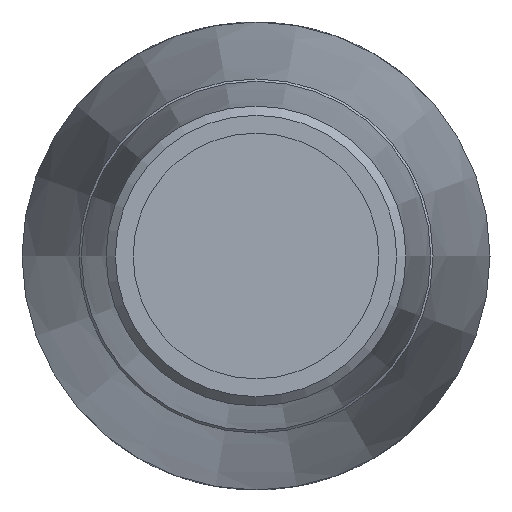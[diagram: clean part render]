
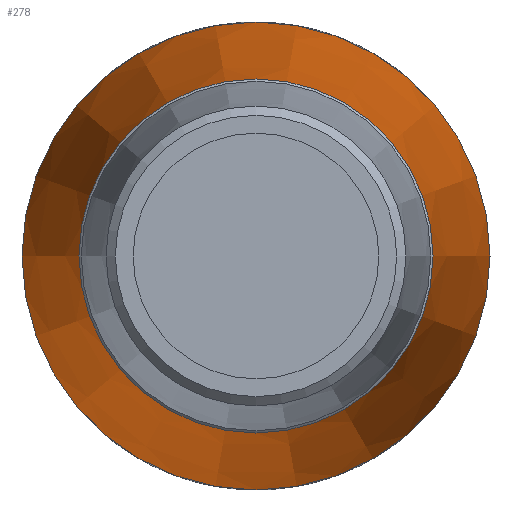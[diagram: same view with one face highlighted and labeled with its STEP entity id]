
A CAD part, left-side view. The second image highlights one B-rep face of the part: STEP entity #278.
In plain terms, the highlighted conical face has half-angle 6 degrees and reference radius 7 mm.
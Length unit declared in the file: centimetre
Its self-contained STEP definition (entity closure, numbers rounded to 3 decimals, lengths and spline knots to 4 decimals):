
#46=FACE_BOUND('',#86,.T.);
#63=FACE_OUTER_BOUND('',#85,.T.);
#85=EDGE_LOOP('',(#191));
#86=EDGE_LOOP('',(#192));
#121=CIRCLE('',#301,0.6052);
#123=CIRCLE('',#304,0.8);
#137=VERTEX_POINT('',#423);
#139=VERTEX_POINT('',#428);
#161=EDGE_CURVE('',#137,#137,#121,.T.);
#163=EDGE_CURVE('',#139,#139,#123,.T.);
#191=ORIENTED_EDGE('',*,*,#163,.T.);
#192=ORIENTED_EDGE('',*,*,#161,.F.);
#246=CONICAL_SURFACE('',#303,0.7,6.);
#278=ADVANCED_FACE('',(#63,#46),#246,.T.);
#301=AXIS2_PLACEMENT_3D('',#424,#341,#342);
#303=AXIS2_PLACEMENT_3D('',#427,#345,#346);
#304=AXIS2_PLACEMENT_3D('',#429,#347,#348);
#341=DIRECTION('center_axis',(-1.,0.,0.));
#342=DIRECTION('ref_axis',(0.,1.,0.));
#345=DIRECTION('center_axis',(1.,0.,0.));
#346=DIRECTION('ref_axis',(0.,-1.,0.));
#347=DIRECTION('center_axis',(-1.,0.,0.));
#348=DIRECTION('ref_axis',(0.,0.,-1.));
#423=CARTESIAN_POINT('',(-4.2503,-0.6052,0.));
#424=CARTESIAN_POINT('Origin',(-4.2503,0.,
0.));
#427=CARTESIAN_POINT('Origin',(-3.3486,0.,0.));
#428=CARTESIAN_POINT('',(-2.3971,-0.8,0.));
#429=CARTESIAN_POINT('Origin',(-2.3971,0.,0.));
